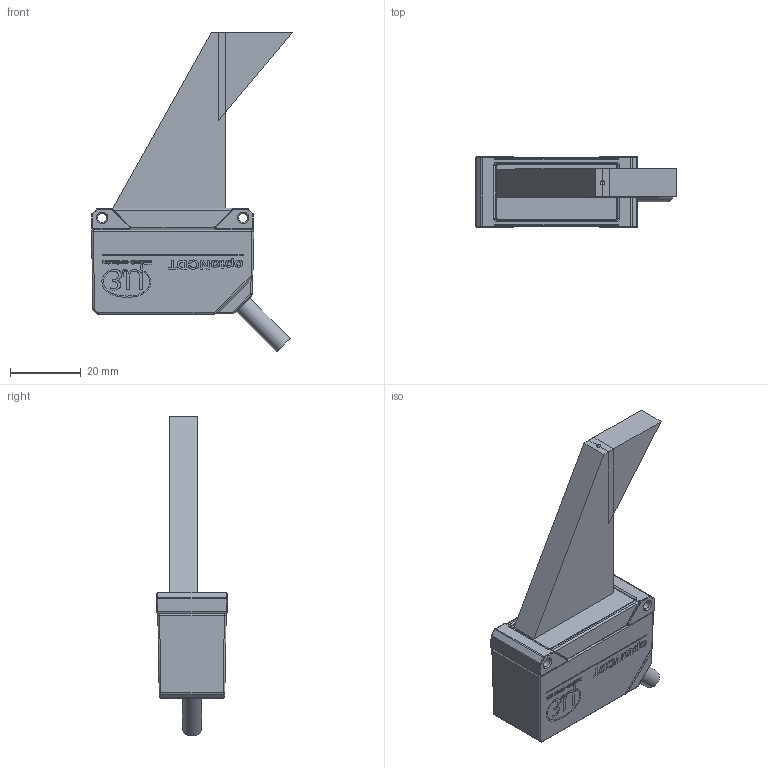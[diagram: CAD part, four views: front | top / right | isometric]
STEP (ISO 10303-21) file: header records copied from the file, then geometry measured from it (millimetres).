
FILE_DESCRIPTION (( 'STEP AP214' ), '1' );
FILE_NAME ('ILD1x20-25_1.step', '2025-11-05T08:55:27', ( '' ), ( '' ), 'SwSTEP 2.0', 'SolidWorks 2022', '' );
FILE_SCHEMA (( 'AUTOMOTIVE_DESIGN' ));
Length unit declared in the file: millimetre
Products named in the file (1): ILD1x20-25_1
Bounding box: 56.99 x 20 x 90.71 mm (x, y, z)
Volume: 34575.8 mm3; surface area: 13737 mm2
Topology: 10 solids, 10 shells, 2119 faces, 5579 edges, 3599 vertices
Faces by surface type: bspline 1001, plane 905, cylinder 144, torus 26, cone 23, sphere 20
Full cylindrical faces by diameter (mm): 0.7 x1, 0.8 x1, 1.2 x1, 1.6 x2, 2.4 x1, 2.5 x2, 3 x2, 5.4 x1, 7.5 x1, 8 x1
Entity records: 87510 total; most frequent: CARTESIAN_POINT 41456, ORIENTED_EDGE 10958, DIRECTION 6000, EDGE_CURVE 5479, VERTEX_POINT 3578, LINE 3100, VECTOR 3100, EDGE_LOOP 2327
